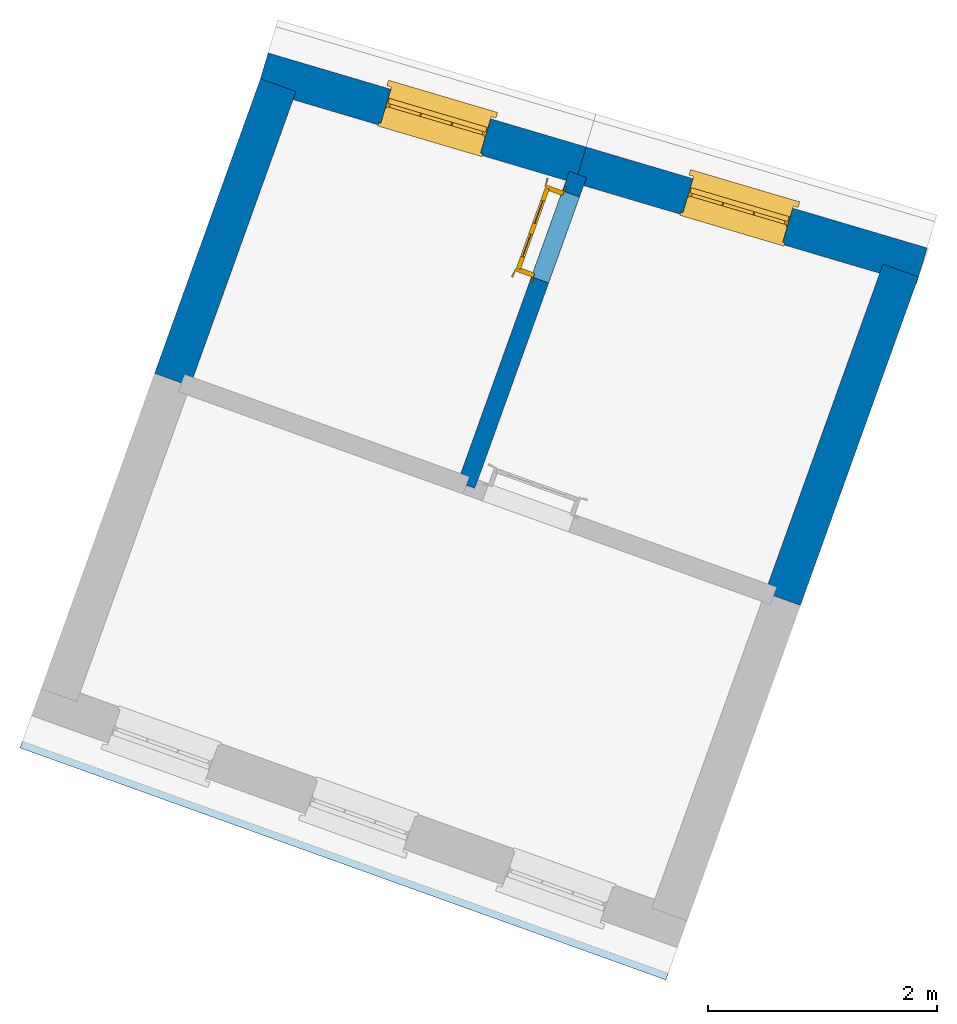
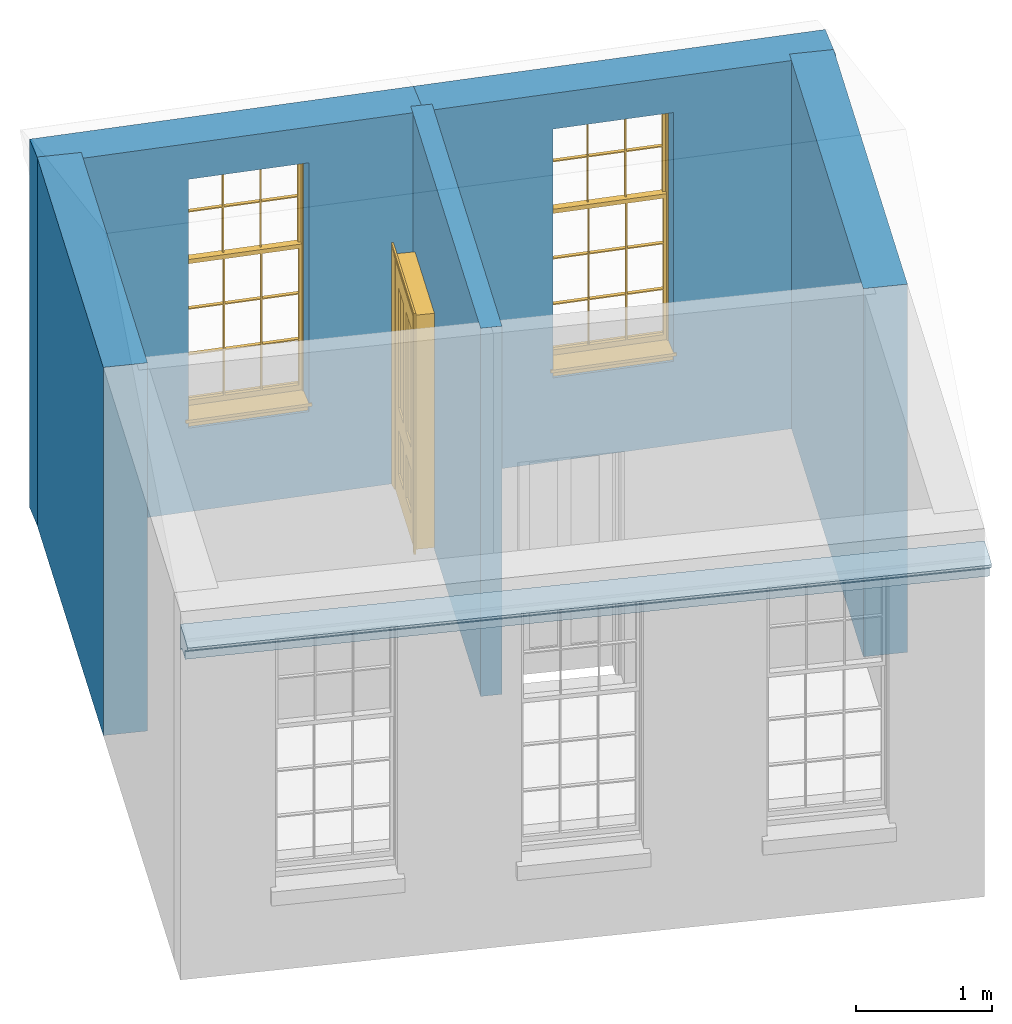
# One storey, part 2 of 3: 5 walls, 2 windows, 1 door, 1 roof, 3 openings.
"""IFC4 building model written with IfcOpenShell, lengths in metres."""

import ifcopenshell
import ifcopenshell.guid

model = None  # the IFC model being written
_history = None  # IfcOwnerHistory: only IFC2X3 demands one
_inside = {}  # id of a spatial element -> (the spatial element, [elements in it])
_under = {}  # id of a project, library or spatial element -> (it, [spatial elements below it])
_declared = {}  # id of a project -> (the project, [libraries it declares])
_typed = {}  # id of a type object -> (the type object, [elements of that type])
_made_of = {}  # id of a material, layer set ... -> (it, [elements and type objects made of it])


def new_model(schema):
    """Start an empty IFC model of exactly this schema.

    Asked for "IFC4X3", IfcOpenShell would pick the latest addendum, in which some entities
    have other attributes; the version numbers below select the first issue.
    IFC2X3 requires an IfcOwnerHistory on every rooted entity: one is made here for all.
    """
    global model, _history
    if schema == "IFC4X3":
        model = ifcopenshell.file(schema_version=(4, 3, 0, 0))
    else:
        model = ifcopenshell.file(schema=schema)
    _inside.clear()
    _under.clear()
    _declared.clear()
    _typed.clear()
    _made_of.clear()
    _history = None
    if model.schema == "IFC2X3":
        org = make("IfcOrganization", Name="unknown")
        user = make(
            "IfcPersonAndOrganization",
            ThePerson=make("IfcPerson", FamilyName="unknown"),
            TheOrganization=org,
        )
        app = make(
            "IfcApplication",
            ApplicationDeveloper=org,
            Version="unknown",
            ApplicationFullName="unknown",
            ApplicationIdentifier="unknown",
        )
        _history = make(
            "IfcOwnerHistory",
            OwningUser=user,
            OwningApplication=app,
            ChangeAction="ADDED",
            CreationDate=0,
        )
    return model


def make(cls, **values):
    """One entity of the class cls with the attributes given. An attribute that is None is left unset."""
    return model.create_entity(
        cls, **{name: value for name, value in values.items() if value is not None}
    )


def rooted(cls, **values):
    """An entity with a GlobalId (a new one), such as an element, a storey or a relation."""
    return make(cls, GlobalId=ifcopenshell.guid.new(), OwnerHistory=_history, **values)


def si_unit(unit_type, name, prefix=None):
    """IfcSIUnit, for example si_unit("LENGTHUNIT", "METRE", prefix="MILLI")."""
    return make("IfcSIUnit", UnitType=unit_type, Prefix=prefix, Name=name)


def assignment(units):
    """IfcUnitAssignment: the units of a project."""
    return None if units is None else make("IfcUnitAssignment", Units=units)


def point(xyz):
    """IfcCartesianPoint."""
    return None if xyz is None else make("IfcCartesianPoint", Coordinates=xyz)


def direction(xyz):
    """IfcDirection."""
    return None if xyz is None else make("IfcDirection", DirectionRatios=xyz)


def frame(location, z_axis=None, x_axis=None):
    """IfcAxis2Placement3D, a coordinate frame: its origin and axes. An axis left out is left unset."""
    return make(
        "IfcAxis2Placement3D",
        Location=point(location),
        Axis=direction(z_axis),
        RefDirection=direction(x_axis),
    )


def origin():
    """The frame at (0, 0, 0) with its axes left unset."""
    return frame((0.0, 0.0, 0.0))


def origin_with_axes():
    """The frame at (0, 0, 0) with the z axis (0, 0, 1) and the x axis (1, 0, 0) written out."""
    return frame((0.0, 0.0, 0.0), z_axis=(0.0, 0.0, 1.0), x_axis=(1.0, 0.0, 0.0))


def place(relative_to, where):
    """IfcLocalPlacement: puts the frame where relative to a parent placement (None: the world)."""
    return make(
        "IfcLocalPlacement", PlacementRelTo=relative_to, RelativePlacement=where
    )


def context(
    kind, dimensions, precision=None, world=None, true_north=None, identifier=None
):
    """IfcGeometricRepresentationContext, for example the 3D "Model" context."""
    return make(
        "IfcGeometricRepresentationContext",
        ContextIdentifier=identifier,
        ContextType=kind,
        CoordinateSpaceDimension=dimensions,
        Precision=precision,
        WorldCoordinateSystem=world,
        TrueNorth=true_north,
    )


def subcontext(parent, identifier, kind, view, scale=None):
    """IfcGeometricRepresentationSubContext, for example "Body" below "Model"."""
    return make(
        "IfcGeometricRepresentationSubContext",
        ContextIdentifier=identifier,
        ContextType=kind,
        ParentContext=parent,
        TargetScale=scale,
        TargetView=view,
    )


def project(units=None, contexts=None):
    """IfcProject with its units and contexts."""
    return rooted(
        "IfcProject",
        Name="project",
        RepresentationContexts=contexts,
        UnitsInContext=assignment(units),
    )


def spatial(cls, under=None, at=None, **own):
    """A site, building, storey or space (cls), placed at a placement, below another one or the project."""
    s = rooted(cls, ObjectPlacement=at, **own)
    if under is not None:
        _under.setdefault(under.id(), (under, []))[1].append(s)
    return s


def polyline(points):
    """IfcPolyline through the points."""
    return make("IfcPolyline", Points=[point(p) for p in points])


def outline(outer, holes=None, kind="AREA"):
    """IfcArbitraryClosedProfileDef: a profile drawn as a closed curve; with holes, ...WithVoids."""
    if holes is None:
        return make("IfcArbitraryClosedProfileDef", ProfileType=kind, OuterCurve=outer)
    return make(
        "IfcArbitraryProfileDefWithVoids",
        ProfileType=kind,
        OuterCurve=outer,
        InnerCurves=holes,
    )


def extrude(swept, where, along, depth):
    """IfcExtrudedAreaSolid: the profile swept, set in the frame where, extruded along a direction by depth."""
    return make(
        "IfcExtrudedAreaSolid",
        SweptArea=swept,
        Position=where,
        ExtrudedDirection=direction(along),
        Depth=depth,
    )


def clip(a, b, op="DIFFERENCE"):
    """IfcBooleanClippingResult: the solid a cut by the half space b."""
    return make(
        "IfcBooleanClippingResult", Operator=op, FirstOperand=a, SecondOperand=b
    )


def halfspace(plane, agree):
    """IfcHalfSpaceSolid: all space on one side of the plane z = 0 of the frame plane."""
    return make(
        "IfcHalfSpaceSolid",
        BaseSurface=make("IfcPlane", Position=plane),
        AgreementFlag=agree,
    )


def faces_of(points, faces, orient=None, outer=None):
    """IfcFace entities. A face is a list of loops; a loop is a list of indices into points, from 0.

    orient and outer hold one flag for each loop. By default every Orientation is true, the
    first loop of a face is its IfcFaceOuterBound and the others are IfcFaceBound.
    """
    made = []
    for i, loops in enumerate(faces):
        bounds = []
        for j, loop in enumerate(loops):
            is_outer = j == 0 if outer is None else outer[i][j]
            bounds.append(
                make(
                    "IfcFaceOuterBound" if is_outer else "IfcFaceBound",
                    Bound=make("IfcPolyLoop", Polygon=[points[k] for k in loop]),
                    Orientation=True if orient is None else orient[i][j],
                )
            )
        made.append(make("IfcFace", Bounds=bounds))
    return made


def faceted_brep(points, faces, orient=None, outer=None, voids=None):
    """IfcFacetedBrep: a solid bounded by flat faces; with voids (closed shells), ...WithVoids."""
    shared = [point(p) for p in points]
    hull = make("IfcClosedShell", CfsFaces=faces_of(shared, faces, orient, outer))
    if voids is None:
        return make("IfcFacetedBrep", Outer=hull)
    return make(
        "IfcFacetedBrepWithVoids",
        Outer=hull,
        Voids=[
            make(cls, CfsFaces=faces_of(shared, fs, o, b)) for cls, fs, o, b in voids
        ],
    )


def shape(context_of_items, identifier, shape_type, items):
    """IfcShapeRepresentation: the items that make up one representation, for example the "Body"."""
    return make(
        "IfcShapeRepresentation",
        ContextOfItems=context_of_items,
        RepresentationIdentifier=identifier,
        RepresentationType=shape_type,
        Items=items,
    )


def source(mapping_origin, context_of_items, identifier, shape_type, items):
    """IfcRepresentationMap: a shape defined once, which mapped items show again and again."""
    return make(
        "IfcRepresentationMap",
        MappingOrigin=mapping_origin,
        MappedRepresentation=shape(context_of_items, identifier, shape_type, items),
    )


def transform(
    local_origin,
    x_axis=None,
    y_axis=None,
    z_axis=None,
    scale=None,
    scale2=None,
    scale3=None,
    uniform=True,
):
    """IfcCartesianTransformationOperator3D, or its non-uniform kind. x_axis, y_axis, z_axis: its Axis1, 2, 3."""
    if uniform:
        return make(
            "IfcCartesianTransformationOperator3D",
            Axis1=direction(x_axis),
            Axis2=direction(y_axis),
            LocalOrigin=point(local_origin),
            Scale=scale,
            Axis3=direction(z_axis),
        )
    return make(
        "IfcCartesianTransformationOperator3DnonUniform",
        Axis1=direction(x_axis),
        Axis2=direction(y_axis),
        LocalOrigin=point(local_origin),
        Scale=scale,
        Axis3=direction(z_axis),
        Scale2=scale2,
        Scale3=scale3,
    )


def mapped(mapping_source, mapping_target):
    """IfcMappedItem: shows the shape of a source again, moved by a transform."""
    return make(
        "IfcMappedItem", MappingSource=mapping_source, MappingTarget=mapping_target
    )


def material(Name=None, Category=None):
    """IfcMaterial."""
    return make("IfcMaterial", Name=Name, Category=Category)


def layer(
    of_material, thickness, ventilated=None, Name=None, Category=None, Priority=None
):
    """IfcMaterialLayer: one layer of a wall or slab, of a material (None: an air gap)."""
    return make(
        "IfcMaterialLayer",
        Material=of_material,
        LayerThickness=thickness,
        IsVentilated=ventilated,
        Name=Name,
        Category=Category,
        Priority=Priority,
    )


def layer_set(layers, Name=None):
    """IfcMaterialLayerSet."""
    return make("IfcMaterialLayerSet", MaterialLayers=layers, LayerSetName=Name)


def layer_usage(for_layer_set, set_direction, sense, offset, extent=None):
    """IfcMaterialLayerSetUsage: how a layer set lies in its element."""
    return make(
        "IfcMaterialLayerSetUsage",
        ForLayerSet=for_layer_set,
        LayerSetDirection=set_direction,
        DirectionSense=sense,
        OffsetFromReferenceLine=offset,
        ReferenceExtent=extent,
    )


def material_profile(
    of_material, cross_section, Name=None, Category=None, Priority=None
):
    """IfcMaterialProfile: a cross section and its material."""
    return make(
        "IfcMaterialProfile",
        Name=Name,
        Material=of_material,
        Profile=cross_section,
        Priority=Priority,
        Category=Category,
    )


def profile_set(profiles, Name=None, composite=None):
    """IfcMaterialProfileSet."""
    return make(
        "IfcMaterialProfileSet",
        Name=Name,
        MaterialProfiles=profiles,
        CompositeProfile=composite,
    )


def profile_usage(for_profile_set, cardinal=None, extent=None):
    """IfcMaterialProfileSetUsage: how a profile set lies along its element."""
    return make(
        "IfcMaterialProfileSetUsage",
        ForProfileSet=for_profile_set,
        CardinalPoint=cardinal,
        ReferenceExtent=extent,
    )


def made_of(thing, what):
    """Note that an element or type object is made of a material, layer set ...; save() writes the relation."""
    if what is not None:
        _made_of.setdefault(what.id(), (what, []))[1].append(thing)
    return thing


def type_object(cls, material=None, **own):
    """A type object (cls), such as IfcWallType, which elements share."""
    return made_of(rooted(cls, **own), material)


def type_shapes(of_type, sources):
    """Give a type object the sources (RepresentationMaps) that its elements show as mapped items."""
    of_type.RepresentationMaps = sources


def element(
    cls,
    number,
    at=None,
    inside=None,
    cuts=None,
    type_object=None,
    material=None,
    context=None,
    identifier="Body",
    shape_type=None,
    held_by="IfcProductDefinitionShape",
    body=None,
    shapes=None,
    **own,
):
    """One element of the class cls, such as IfcWall. Its Tag is "e" and its number.

    at: its placement. inside: the storey or other place that contains it. cuts: it is an
    opening in that element (IfcRelVoidsElement). A single representation is given by context,
    identifier, shape_type and body (its items); several are given by shapes. held_by: the class
    of the entity that holds the representations. save() writes the other relations.
    """
    e = rooted(cls, Tag="e%d" % number, ObjectPlacement=at, **own)
    if body is not None:
        shapes = [shape(context, identifier, shape_type, body)]
    if shapes is not None:
        e.Representation = make(held_by, Representations=shapes)
    if inside is not None:
        _inside.setdefault(inside.id(), (inside, []))[1].append(e)
    if cuts is not None:
        rooted(
            "IfcRelVoidsElement", RelatingBuildingElement=cuts, RelatedOpeningElement=e
        )
    if type_object is not None:
        _typed.setdefault(type_object.id(), (type_object, []))[1].append(e)
    return made_of(e, material)


def fill(opening, filler):
    """IfcRelFillsElement: the door or window that sits in an opening."""
    return rooted(
        "IfcRelFillsElement",
        RelatingOpeningElement=opening,
        RelatedBuildingElement=filler,
    )


def aggregate(whole, parts):
    """IfcRelAggregates: a whole, such as a stair, and the parts it consists of."""
    return rooted("IfcRelAggregates", RelatingObject=whole, RelatedObjects=parts)


def save(model, path):
    """Write the relations noted so far, then the file.

    IfcRelAggregates (storeys below a building ...), IfcRelContainedInSpatialStructure (elements
    in a storey), IfcRelDefinesByType, IfcRelAssociatesMaterial and IfcRelDeclares: one each for
    every whole, place, type object, material and project.
    """
    for whole, parts in _under.values():
        aggregate(whole, parts)
    for where, things in _inside.values():
        rooted(
            "IfcRelContainedInSpatialStructure",
            RelatedElements=things,
            RelatingStructure=where,
        )
    for kind, things in _typed.values():
        rooted("IfcRelDefinesByType", RelatedObjects=things, RelatingType=kind)
    for what, things in _made_of.values():
        rooted("IfcRelAssociatesMaterial", RelatedObjects=things, RelatingMaterial=what)
    for by, libraries in _declared.values():
        rooted("IfcRelDeclares", RelatingContext=by, RelatedDefinitions=libraries)
    model.write(path)


model = new_model("IFC4")

# Units and contexts
model_context = context("Model", 3, world=origin_with_axes())
body_context = subcontext(model_context, "Body", "Model", "MODEL_VIEW")
ifc_project = project(units=[si_unit("PLANEANGLEUNIT", "RADIAN"), si_unit("MASSUNIT", "GRAM", prefix="KILO"), si_unit("FORCEUNIT", "NEWTON", prefix="KILO"), si_unit("LENGTHUNIT", "METRE"), si_unit("AREAUNIT", "SQUARE_METRE"), si_unit("VOLUMEUNIT", "CUBIC_METRE")], contexts=[model_context, model_context])

# Sites, building, storey
site_1_placement = place(None, origin_with_axes())
site_1 = spatial("IfcSite", under=ifc_project, at=site_1_placement, Name="Tamar")
site_2_placement = place(site_1_placement, origin_with_axes())
site_2 = spatial("IfcSite", under=site_1, at=site_2_placement, Name="Site plot-24", CompositionType="ELEMENT")
building_placement = place(None, origin_with_axes())
building = spatial("IfcBuilding", under=site_2, at=building_placement, Name="Building plot-24", CompositionType="ELEMENT")
storey_placement = place(None, frame((0.0, 0.0, 32.0), z_axis=(0.0, 0.0, 1.0), x_axis=(1.0, 0.0, 0.0)))
storey = spatial("IfcBuildingStorey", under=building, at=storey_placement, Name="plot-24 2", CompositionType="ELEMENT", Elevation=32.0)

# Wall, opening, window
ifc_material_1 = material(Name="Masonry")
ifc_layer_1 = layer(ifc_material_1, 0.33, ventilated=False)
ifc_layer_set_1 = layer_set([ifc_layer_1], Name="exterior_0.08_0.25")
ifc_layer_usage_1 = layer_usage(ifc_layer_set_1, "AXIS2", "POSITIVE", -0.25)
wall_type_1 = type_object("IfcWallType", Name="exterior_0.08_0.25", PredefinedType="SOLIDWALL", material=ifc_layer_set_1)
wall_1_placement = place(storey_placement, frame((276.213329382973, 278.988640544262, 0.0), z_axis=(0.0, 0.0, 1.0), x_axis=(-0.958899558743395, 0.283745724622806, 0.0)))
wall_1 = element("IfcWall", 1, at=wall_1_placement, inside=storey, type_object=wall_type_1, material=ifc_layer_usage_1, Name="exterior", context=body_context, shape_type="SweptSolid", body=[
    extrude(outline(polyline([(-0.250000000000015, 0.0800000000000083), (-0.250000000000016, -0.250000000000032), (2.85983964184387, -0.250000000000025), (2.85983964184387, 0.0800000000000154), (-0.250000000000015, 0.0800000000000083)])), origin_with_axes(), (0.0, 0.0, 1.0), 3.3),
])
opening_1_placement = place(wall_1_placement, frame((0.974919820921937, 0.0, 0.75)))
opening_1 = element("IfcOpeningElement", 2, at=opening_1_placement, cuts=wall_1, Name="My Opening", ObjectType="Opening", context=body_context, shape_type="SweptSolid", body=[
    extrude(outline(polyline([(0.0, -0.270000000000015), (0.910000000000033, -0.269999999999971), (0.910000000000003, 1.09999999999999), (-3.03090885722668e-14, 1.09999999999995), (0.0, -0.270000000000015)])), origin_with_axes(), (0.0, 0.0, 1.0), 2.23),
])
window_type = type_object("IfcWindowType", Name="sash_big_taller", PartitioningType="DOUBLE_PANEL_HORIZONTAL", PredefinedType="NOTDEFINED")
shared_shape_1 = source(origin(), body_context, "Body", "Brep", [
    faceted_brep([(0.033125, 0.145, 1.385209), (0.01, 0.145, 1.385209), (0.033125, 0.145, 1.786042), (0.876875, 0.145, 1.385209), (0.876875, 0.145, 1.786042), (0.9, 0.145, 1.385209), (0.876875, 0.145, 1.796042), (0.876875, 0.145, 2.196875), (0.9, 0.145, 2.22), (0.033125, 0.145, 2.196875), (0.033125, 0.145, 1.796042), (0.01, 0.145, 2.22), (0.876875, 0.115, 1.786042), (0.876875, 0.115, 1.385209), (0.9, 0.115, 1.347084), (0.033125, 0.115, 2.196875), (0.01, 0.115, 2.22), (0.033125, 0.115, 1.796042), (0.01, 0.115, 1.347084), (0.033125, 0.115, 1.385209), (0.033125, 0.115, 1.786042), (0.876875, 0.115, 2.196875), (0.876875, 0.115, 1.796042), (0.9, 0.115, 2.22), (0.033125, 0.145, 1.347084), (0.01, 0.145, 1.347084), (0.033125, 0.145, 0.94625), (0.876875, 0.145, 1.347084), (0.876875, 0.145, 0.94625), (0.9, 0.145, 1.347084), (0.876875, 0.145, 0.52625), (0.876875, 0.145, 0.125417), (0.9, 0.145, 0.077167), (0.033125, 0.145, 0.125417), (0.033125, 0.145, 0.52625), (0.01, 0.145, 0.077167), (-0.0425, 0.0, 0.01), (-0.0425, -0.05, 0.001667), (0.0, 0.0, 0.01), (0.9525, 0.0, 0.01), (0.91, 0.0, 0.01), (0.9525, -0.05, 0.001667), (-0.02, 0.33, 0.077167), (0.0, 0.33, 0.077167), (-0.02, 0.36, 0.077167), (0.0, 0.19, 0.077167), (0.01, 0.19, 0.077167), (0.91, 0.19, 0.077167), (0.91, 0.33, 0.077167), (0.9, 0.19, 0.077167), (0.93, 0.33, 0.077167), (0.93, 0.36, 0.077167), (0.01, 0.175, 1.385209), (0.9, 0.175, 1.385209), (0.876875, 0.175, 0.125417), (0.876875, 0.175, 0.52625), (0.9, 0.175, 0.077167), (0.876875, 0.175, 0.94625), (0.876875, 0.175, 1.347084), (0.033125, 0.175, 0.125417), (0.01, 0.175, 0.077167), (0.033125, 0.175, 0.52625), (0.033125, 0.175, 1.347084), (0.033125, 0.175, 0.94625), (-0.02, 0.33, 0.052167), (-0.02, 0.36, 0.052167), (0.93, 0.36, 0.052167), (0.93, 0.33, 0.052167), (0.91, 0.33, 0.052167), (0.0, 0.33, 0.052167), (0.91, 0.1, 0.026667), (0.0, 0.1, 0.026667), (-0.0425, -0.05, -0.123333), (0.9525, -0.05, -0.123333), (-0.0425, 0.0, -0.123333), (0.9525, 0.0, -0.123333), (0.01, 0.19, 2.22), (0.9, 0.19, 2.22), (0.0, 0.19, 2.23), (0.91, 0.19, 2.23), (0.01, 0.1, 0.077167), (0.9, 0.1, 0.077167), (0.592292, 0.145, 0.125417), (0.592292, 0.175, 0.125417), (0.317708, 0.175, 0.125417), (0.317708, 0.145, 0.125417), (0.592292, 0.145, 0.53625), (0.317708, 0.145, 0.53625), (0.317708, 0.145, 0.52625), (0.592292, 0.145, 0.52625), (0.592292, 0.175, 0.53625), (0.317708, 0.175, 0.53625), (0.592292, 0.115, 1.796042), (0.592292, 0.145, 1.796042), (0.317708, 0.145, 1.796042), (0.317708, 0.115, 1.796042), (0.317708, 0.115, 1.786042), (0.592292, 0.115, 1.786042), (0.317708, 0.145, 1.786042), (0.592292, 0.145, 1.786042), (0.602292, 0.115, 1.786042), (0.592292, 0.115, 1.385209), (0.602292, 0.115, 1.385209), (0.602292, 0.145, 1.385209), (0.592292, 0.145, 1.385209), (0.602292, 0.145, 1.786042), (0.876875, 0.145, 0.53625), (0.876875, 0.175, 0.53625), (0.602292, 0.175, 0.53625), (0.602292, 0.145, 0.53625), (0.317708, 0.175, 0.52625), (0.307708, 0.175, 0.125417), (0.307708, 0.175, 0.52625), (0.602292, 0.175, 0.52625), (0.602292, 0.175, 0.125417), (0.592292, 0.175, 0.52625), (0.307708, 0.175, 0.53625), (0.033125, 0.175, 0.53625), (0.317708, 0.175, 1.347084), (0.317708, 0.175, 0.94625), (0.307708, 0.175, 0.94625), (0.307708, 0.175, 1.347084), (0.602292, 0.175, 1.347084), (0.602292, 0.175, 0.94625), (0.592292, 0.175, 0.94625), (0.592292, 0.175, 1.347084), (0.307708, 0.145, 0.52625), (0.307708, 0.145, 0.125417), (0.307708, 0.145, 0.53625), (0.033125, 0.145, 0.53625), (0.307708, 0.145, 1.347084), (0.307708, 0.145, 0.94625), (0.592292, 0.145, 1.347084), (0.592292, 0.145, 0.94625), (0.317708, 0.145, 0.94625), (0.317708, 0.145, 1.347084), (0.602292, 0.145, 0.94625), (0.602292, 0.145, 1.347084), (0.602292, 0.145, 0.52625), (0.602292, 0.145, 0.125417), (0.307708, 0.115, 1.796042), (0.307708, 0.115, 1.786042), (0.307708, 0.115, 1.385209), (0.317708, 0.115, 1.385209), (0.317708, 0.115, 2.196875), (0.307708, 0.115, 2.196875), (0.602292, 0.115, 2.196875), (0.592292, 0.115, 2.196875), (0.602292, 0.115, 1.796042), (0.602292, 0.145, 1.796042), (0.307708, 0.145, 1.796042), (0.307708, 0.145, 2.196875), (0.317708, 0.145, 2.196875), (0.592292, 0.145, 2.196875), (0.602292, 0.145, 2.196875), (0.307708, 0.145, 1.786042), (0.317708, 0.145, 1.385209), (0.307708, 0.145, 1.385209), (0.876875, 0.175, 0.93625), (0.033125, 0.175, 0.93625), (0.033125, 0.145, 0.93625), (0.876875, 0.145, 0.93625), (0.91, 0.1, 2.23), (0.9, 0.1, 2.22), (0.01, 0.1, 2.22), (0.0, 0.1, 2.23), (0.91, 0.0, 0.0), (0.0, 0.0, 0.0), (0.91, 0.33, 0.0), (0.0, 0.33, 0.0), (0.317708, 0.145, 0.93625), (0.592292, 0.145, 0.93625), (0.317708, 0.175, 0.93625), (0.307708, 0.175, 0.93625), (0.602292, 0.175, 0.93625), (0.592292, 0.175, 0.93625), (0.307708, 0.145, 0.93625), (0.602292, 0.145, 0.93625)], [[[0, 1, 2]], [[3, 4, 5]], [[6, 7, 8]], [[9, 10, 11]], [[12, 13, 14]], [[15, 16, 17]], [[18, 19, 20]], [[21, 22, 23]], [[24, 25, 26]], [[27, 28, 29]], [[30, 31, 32]], [[33, 34, 35]], [[14, 27, 29]], [[25, 24, 18]], [[36, 37, 38]], [[39, 40, 41]], [[42, 43, 44]], [[45, 46, 43]], [[47, 48, 49]], [[50, 51, 48]], [[1, 0, 52]], [[5, 53, 3]], [[54, 55, 56]], [[57, 58, 53]], [[59, 60, 61]], [[62, 63, 52]], [[48, 43, 46, 49]], [[51, 44, 43, 48]], [[64, 42, 44, 65]], [[65, 44, 51, 66]], [[66, 51, 50, 67]], [[65, 66, 68, 69]], [[60, 56, 49, 46]], [[70, 71, 38, 40]], [[37, 41, 40, 38]], [[37, 72, 73, 41]], [[74, 75, 73, 72]], [[8, 11, 76, 77]], [[76, 78, 79, 77]], [[32, 35, 80, 81]], [[81, 80, 71, 70]], [[82, 83, 84, 85]], [[86, 87, 88, 89]], [[86, 90, 91, 87]], [[92, 93, 94, 95]], [[92, 95, 96, 97]], [[96, 98, 99, 97]], [[100, 97, 101, 102]], [[103, 104, 99, 105]], [[97, 99, 104, 101]], [[102, 103, 105, 100]], [[106, 107, 108, 109]], [[110, 84, 111, 112]], [[113, 114, 83, 115]], [[116, 112, 61, 117]], [[90, 115, 110, 91]], [[118, 119, 120, 121]], [[122, 123, 124, 125]], [[113, 108, 107, 55]], [[126, 112, 111, 127]], [[34, 61, 112, 126]], [[89, 115, 83, 82]], [[88, 110, 115, 89]], [[85, 84, 110, 88]], [[128, 116, 117, 129]], [[130, 121, 120, 131]], [[132, 125, 124, 133]], [[134, 119, 118, 135]], [[136, 123, 122, 137]], [[138, 113, 55, 30]], [[139, 114, 113, 138]], [[138, 30, 106, 109]], [[88, 126, 127, 85]], [[138, 89, 82, 139]], [[137, 132, 133, 136]], [[128, 129, 34, 126]], [[135, 130, 131, 134]], [[140, 17, 20, 141]], [[96, 141, 142, 143]], [[144, 145, 140, 95]], [[146, 147, 92, 148]], [[100, 12, 22, 148]], [[149, 6, 4, 105]], [[94, 150, 151, 152]], [[149, 93, 153, 154]], [[99, 98, 94, 93]], [[155, 2, 10, 150]], [[156, 157, 155, 98]], [[141, 155, 157, 142]], [[20, 2, 155, 141]], [[143, 156, 98, 96]], [[140, 150, 10, 17]], [[145, 151, 150, 140]], [[147, 153, 93, 92]], [[95, 94, 152, 144]], [[22, 6, 149, 148]], [[148, 149, 154, 146]], [[100, 105, 4, 12]], [[109, 86, 89, 138]], [[108, 113, 115, 90]], [[91, 110, 112, 116]], [[87, 128, 126, 88]], [[97, 100, 148, 92]], [[141, 96, 95, 140]], [[98, 155, 150, 94]], [[105, 99, 93, 149]], [[143, 101, 104, 156]], [[135, 118, 125, 132]], [[144, 152, 153, 147]], [[127, 111, 59, 33]], [[15, 9, 151, 145]], [[146, 154, 7, 21]], [[31, 54, 114, 139]], [[36, 74, 72, 37]], [[39, 41, 73, 75]], [[18, 14, 101, 143]], [[23, 16, 144, 147]], [[83, 56, 60, 84]], [[52, 53, 125, 118]], [[53, 52, 156, 104]], [[11, 8, 153, 152]], [[14, 18, 135, 132]], [[2, 1, 11, 10]], [[8, 5, 4, 6]], [[57, 53, 56, 158]], [[60, 52, 63, 159]], [[26, 25, 35, 160]], [[32, 29, 28, 161]], [[14, 23, 22, 12]], [[18, 20, 17, 16]], [[19, 0, 2, 20]], [[17, 10, 9, 15]], [[12, 4, 3, 13]], [[21, 7, 6, 22]], [[27, 58, 57, 28]], [[30, 55, 54, 31]], [[33, 59, 61, 34]], [[26, 63, 62, 24]], [[5, 8, 77, 53]], [[76, 11, 1, 52]], [[46, 45, 78, 76]], [[49, 77, 79, 47]], [[70, 162, 163, 81]], [[71, 80, 164, 165]], [[19, 142, 157, 0]], [[102, 13, 3, 103]], [[121, 130, 24, 62]], [[29, 32, 81, 14]], [[80, 35, 25, 18]], [[60, 46, 76, 52]], [[77, 49, 56, 53]], [[23, 14, 81, 163]], [[16, 164, 80, 18]], [[35, 85, 127]], [[127, 33, 35]], [[139, 82, 32]], [[32, 31, 139]], [[32, 82, 85, 35]], [[102, 101, 14]], [[14, 13, 102]], [[18, 143, 142]], [[142, 19, 18]], [[146, 21, 23]], [[23, 147, 146]], [[16, 15, 145]], [[145, 144, 16]], [[11, 152, 151]], [[151, 9, 11]], [[154, 153, 8]], [[8, 7, 154]], [[23, 163, 164, 16]], [[162, 165, 164, 163]], [[52, 118, 121]], [[121, 62, 52]], [[125, 53, 122]], [[58, 122, 53]], [[27, 137, 122, 58]], [[56, 83, 114]], [[114, 54, 56]], [[111, 84, 60]], [[60, 59, 111]], [[137, 27, 14]], [[14, 132, 137]], [[130, 135, 18]], [[18, 24, 130]], [[157, 156, 52]], [[52, 0, 157]], [[103, 3, 53]], [[53, 104, 103]], [[79, 78, 165, 162]], [[78, 45, 71, 165]], [[162, 70, 47, 79]], [[166, 75, 74, 167]], [[68, 66, 67]], [[48, 68, 67, 50]], [[69, 64, 65]], [[42, 64, 69, 43]], [[69, 68, 168, 169]], [[70, 68, 48, 47]], [[166, 168, 68, 70]], [[43, 69, 71, 45]], [[69, 169, 167, 71]], [[168, 166, 167, 169]], [[38, 167, 74, 36]], [[71, 167, 38]], [[39, 75, 166, 40]], [[40, 166, 70]], [[133, 134, 170, 171]], [[133, 124, 119, 134]], [[28, 57, 123, 136]], [[172, 91, 116, 173]], [[174, 108, 90, 175]], [[120, 173, 159, 63]], [[124, 175, 172, 119]], [[174, 123, 57, 158]], [[176, 173, 116, 128]], [[160, 159, 173, 176]], [[171, 175, 90, 86]], [[170, 172, 175, 171]], [[87, 91, 172, 170]], [[131, 120, 63, 26]], [[177, 174, 158, 161]], [[109, 108, 174, 177]], [[177, 161, 28, 136]], [[170, 176, 128, 87]], [[177, 171, 86, 109]], [[131, 26, 160, 176]], [[136, 133, 171, 177]], [[123, 174, 175, 124]], [[119, 172, 173, 120]], [[134, 131, 176, 170]], [[129, 117, 159, 160]], [[161, 158, 107, 106]], [[35, 34, 129]], [[35, 129, 160]], [[32, 106, 30]], [[32, 161, 106]], [[56, 55, 107]], [[56, 107, 158]], [[60, 117, 61]], [[60, 159, 117]]]),
])
type_shapes(window_type, [shared_shape_1])
window_1_placement = place(storey_placement, frame((275.355090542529, 279.524172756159, 0.75), z_axis=(0.0, 0.0, 1.0), x_axis=(-0.872598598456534, 0.258208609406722, 0.0)))
window_1 = element("IfcWindow", 3, at=window_1_placement, inside=storey, type_object=window_type, Name="circulation outside window", OverallHeight=2.23, OverallWidth=0.91, context=body_context, shape_type="MappedRepresentation", body=[
    mapped(shared_shape_1, transform((0.0, 0.0, 0.0), scale=1.0)),
])
fill(opening_1, window_1)

wall_2_placement = place(storey_placement, frame((273.471030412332, 279.800107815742, 0.0), z_axis=(0.0, 0.0, 1.0), x_axis=(-0.958899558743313, 0.283745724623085, 0.0)))
wall_2 = element("IfcWall", 4, at=wall_2_placement, inside=storey, type_object=wall_type_1, material=ifc_layer_usage_1, Name="exterior", context=body_context, shape_type="SweptSolid", body=[
    extrude(outline(polyline([(-1.39927933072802e-14, 0.0800000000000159), (8.05064773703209e-14, -0.250000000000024), (2.8991914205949, -0.249999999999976), (2.89919142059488, 0.0800000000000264), (-1.39927933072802e-14, 0.0800000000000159)])), origin_with_axes(), (0.0, 0.0, 1.0), 3.3),
])
opening_2_placement = place(wall_2_placement, frame((0.869595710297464, 0.0, 0.75)))
opening_2 = element("IfcOpeningElement", 5, at=opening_2_placement, cuts=wall_2, Name="My Opening", ObjectType="Opening", context=body_context, shape_type="SweptSolid", body=[
    extrude(outline(polyline([(0.0, -0.269999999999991), (0.909999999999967, -0.270000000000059), (0.90999999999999, 1.09999999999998), (2.25375273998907e-14, 1.10000000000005), (0.0, -0.269999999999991)])), origin_with_axes(), (0.0, 0.0, 1.0), 2.23),
])
window_2_placement = place(storey_placement, frame((272.713786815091, 280.30575476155, 0.75), z_axis=(0.0, 0.0, 1.0), x_axis=(-0.872598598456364, 0.258208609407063, 0.0)))
window_2 = element("IfcWindow", 6, at=window_2_placement, inside=storey, type_object=window_type, Name="toilet outside window", OverallHeight=2.23, OverallWidth=0.91, context=body_context, shape_type="MappedRepresentation", body=[
    mapped(shared_shape_1, transform((0.0, 0.0, 0.0), scale=1.0)),
])
fill(opening_2, window_2)

# Walls
ifc_material_2 = material(Name="Masonry")
ifc_layer_2 = layer(ifc_material_2, 0.33, ventilated=False)
ifc_layer_set_2 = layer_set([ifc_layer_2], Name="party_0.08_0.25")
ifc_layer_usage_2 = layer_usage(ifc_layer_set_2, "AXIS2", "POSITIVE", -0.25)
wall_type_2 = type_object("IfcWallType", Name="party_0.08_0.25", PredefinedType="SOLIDWALL", material=ifc_layer_set_2)
wall_3_placement = place(storey_placement, frame((270.930721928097, 280.551804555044, 0.0), z_axis=(0.0, 0.0, 1.0), x_axis=(-0.33816408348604, -0.94108716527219, 0.0)))
element("IfcWall", 7, at=wall_3_placement, inside=storey, type_object=wall_type_2, material=ifc_layer_usage_2, Name="party", context=body_context, shape_type="SweptSolid", body=[
    extrude(outline(polyline([(4.81699484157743e-15, 0.0799999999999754), (2.24418131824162e-14, -0.249999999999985), (2.73707989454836, -0.249999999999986), (2.73707989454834, 0.0799999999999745), (4.81699484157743e-15, 0.0799999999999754)])), origin_with_axes(), (0.0, 0.0, 1.0), 3.3),
])
wall_4_placement = place(storey_placement, frame((275.181119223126, 276.116071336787, 0.0), z_axis=(0.0, 0.0, 1.0), x_axis=(0.338164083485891, 0.941087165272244, 0.0)))
element("IfcWall", 8, at=wall_4_placement, inside=storey, type_object=wall_type_2, material=ifc_layer_usage_2, Name="party", context=body_context, shape_type="SweptSolid", body=[
    extrude(outline(polyline([(1.74309591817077e-14, 0.0799999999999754), (-1.70266153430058e-14, -0.249999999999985), (3.05239441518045, -0.249999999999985), (3.05239441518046, 0.0800000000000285), (1.74309591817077e-14, 0.0799999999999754)])), origin_with_axes(), (0.0, 0.0, 1.0), 3.3),
])

# Wall, opening, door
ifc_material_3 = material(Name="Masonry")
ifc_layer_3 = layer(ifc_material_3, 0.16, ventilated=False)
ifc_layer_set_3 = layer_set([ifc_layer_3], Name="interior_0.08_0.08")
ifc_layer_usage_3 = layer_usage(ifc_layer_set_3, "AXIS2", "POSITIVE", -0.08)
wall_type_3 = type_object("IfcWallType", Name="interior_0.08_0.08", PredefinedType="SOLIDWALL", material=ifc_layer_set_3)
wall_5_placement = place(storey_placement, frame((272.494172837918, 277.081581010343, 0.0), z_axis=(0.0, 0.0, 1.0), x_axis=(0.338164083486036, 0.941087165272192, 0.0)))
wall_5 = element("IfcWall", 9, at=wall_5_placement, inside=storey, type_object=wall_type_3, material=ifc_layer_usage_3, Name="interior", context=body_context, shape_type="SweptSolid", body=[
    extrude(outline(polyline([(5.10304271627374e-15, 0.0799999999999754), (-5.09324554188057e-15, -0.0799999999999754), (2.88870883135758, -0.0799999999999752), (2.88870883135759, 0.0799999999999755), (5.10304271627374e-15, 0.0799999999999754)])), origin_with_axes(), (0.0, 0.0, 1.0), 3.3),
])
opening_3_placement = place(wall_5_placement, frame((1.90870883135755, 0.0, 0.0200000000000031)))
opening_3 = element("IfcOpeningElement", 10, at=opening_3_placement, cuts=wall_5, Name="My Opening", ObjectType="Opening", context=body_context, shape_type="SweptSolid", body=[
    extrude(outline(polyline([(0.0, -0.100000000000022), (0.800000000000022, -0.0999999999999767), (0.80000000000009, 1.10000000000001), (6.81676937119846e-14, 1.09999999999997), (0.0, -0.100000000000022)])), origin_with_axes(), (0.0, 0.0, 1.0), 2.1),
])
door_type = type_object("IfcDoorType", Name="door_inside", OperationType="SINGLE_SWING_LEFT", PredefinedType="NOTDEFINED")
shared_shape_2 = source(origin(), body_context, "Body", "Brep", [
    faceted_brep([(0.773, 0.33, 1.895), (0.66, 0.33, 1.895), (0.66, 0.33, 2.073), (0.773, 0.33, 2.073), (0.773, 0.33, 0.82), (0.66, 0.33, 0.82), (0.45, 0.33, 1.895), (0.45, 0.33, 2.073), (0.773, 0.33, 0.62), (0.66, 0.33, 0.62), (0.66, 0.315, 0.82), (0.66, 0.315, 1.895), (0.45, 0.315, 1.895), (0.35, 0.33, 1.895), (0.35, 0.33, 2.073), (0.773, 0.33, 0.225), (0.66, 0.33, 0.225), (0.45, 0.33, 0.62), (0.45, 0.33, 0.82), (0.45, 0.315, 0.82), (0.35, 0.33, 0.82), (0.14, 0.33, 2.073), (0.14, 0.33, 1.895), (0.773, 0.33, 0.0), (0.66, 0.33, 0.0), (0.66, 0.315, 0.225), (0.66, 0.315, 0.62), (0.45, 0.315, 0.62), (0.35, 0.33, 0.62), (0.35, 0.315, 0.82), (0.35, 0.315, 1.895), (0.14, 0.315, 1.895), (0.027, 0.33, 2.073), (0.027, 0.33, 1.895), (0.773, 0.292, 0.0), (0.66, 0.292, 0.0), (0.45, 0.33, 0.0), (0.45, 0.33, 0.225), (0.45, 0.315, 0.225), (0.35, 0.33, 0.225), (0.14, 0.33, 0.82), (0.14, 0.33, 0.62), (0.14, 0.315, 0.82), (0.027, 0.33, 0.82), (0.773, 0.292, 0.225), (0.66, 0.292, 0.225), (0.45, 0.292, 0.0), (0.35, 0.33, 0.0), (0.35, 0.315, 0.225), (0.35, 0.315, 0.62), (0.14, 0.315, 0.62), (0.027, 0.33, 0.62), (0.773, 0.292, 0.62), (0.66, 0.292, 0.62), (0.45, 0.292, 0.225), (0.35, 0.292, 0.0), (0.14, 0.33, 0.225), (0.14, 0.33, 0.0), (0.14, 0.315, 0.225), (0.027, 0.33, 0.225), (0.773, 0.292, 0.82), (0.66, 0.292, 0.82), (0.66, 0.307, 0.62), (0.66, 0.307, 0.225), (0.45, 0.307, 0.225), (0.35, 0.292, 0.225), (0.14, 0.292, 0.0), (0.027, 0.33, 0.0), (0.773, 0.292, 1.895), (0.66, 0.292, 1.895), (0.45, 0.292, 0.62), (0.45, 0.292, 0.82), (0.45, 0.307, 0.62), (0.35, 0.292, 0.62), (0.14, 0.292, 0.225), (0.027, 0.292, 0.0), (0.773, 0.292, 2.073), (0.66, 0.292, 2.073), (0.66, 0.307, 1.895), (0.66, 0.307, 0.82), (0.45, 0.307, 0.82), (0.35, 0.292, 0.82), (0.35, 0.307, 0.62), (0.35, 0.307, 0.225), (0.14, 0.307, 0.225), (0.027, 0.292, 0.225), (0.45, 0.292, 1.895), (0.45, 0.292, 2.073), (0.45, 0.307, 1.895), (0.35, 0.292, 1.895), (0.14, 0.292, 0.82), (0.14, 0.292, 0.62), (0.14, 0.307, 0.62), (0.027, 0.292, 0.62), (0.35, 0.292, 2.073), (0.35, 0.307, 1.895), (0.35, 0.307, 0.82), (0.14, 0.307, 0.82), (0.027, 0.292, 0.82), (0.14, 0.292, 2.073), (0.14, 0.292, 1.895), (0.14, 0.307, 1.895), (0.027, 0.292, 1.895), (0.027, 0.292, 2.073), (0.02, 0.335, 0.0), (0.005, 0.34, 0.0), (0.005, 0.34, 2.095), (0.02, 0.335, 2.08), (0.02, 0.33, 0.0), (0.0, 0.335, 0.0), (0.0, 0.335, 2.1), (0.795, 0.34, 2.095), (0.78, 0.335, 2.08), (0.02, 0.33, 2.08), (0.0, 0.33, 0.0), (-0.032, 0.345, 0.0), (-0.032, 0.345, 2.132), (0.8, 0.335, 2.1), (0.795, 0.34, 0.0), (0.78, 0.335, 0.0), (0.78, 0.33, 2.08), (0.04, 0.29, 0.0), (0.025, 0.29, 0.0), (0.025, 0.29, 2.075), (0.04, 0.29, 2.06), (-0.04, 0.34, 0.0), (-0.04, 0.34, 2.14), (0.832, 0.345, 2.132), (0.8, 0.335, 0.0), (0.78, 0.33, 0.0), (0.8, 0.33, 0.0), (0.86, 0.33, 0.0), (0.86, 0.33, 2.16), (0.8, 0.33, 2.1), (-0.06, 0.33, 2.16), (0.0, 0.33, 2.1), (-0.06, 0.33, 0.0), (-0.04, 0.345, 0.0), (-0.04, 0.345, 2.14), (0.84, 0.34, 2.14), (0.832, 0.345, 0.0), (0.84, 0.34, 0.0), (0.86, 0.345, 0.0), (0.86, 0.345, 2.16), (-0.06, 0.345, 2.16), (-0.06, 0.345, 0.0), (0.84, 0.345, 0.0), (0.84, 0.345, 2.14), (-0.025, 0.155, 0.0), (-0.025, 0.16, 0.0), (-0.025, 0.16, 2.125), (-0.025, 0.155, 2.125), (-0.017, 0.155, 0.0), (-0.017, 0.155, 2.117), (0.825, 0.16, 2.125), (0.825, 0.155, 2.125), (0.825, 0.155, 0.0), (0.845, 0.155, 0.0), (-0.045, 0.155, 2.145), (-0.045, 0.155, 0.0), (0.845, 0.155, 2.145), (0.015, 0.165, 0.0), (0.015, 0.165, 2.085), (0.817, 0.155, 2.117), (0.825, 0.16, 0.0), (0.845, 0.17, 0.0), (0.845, 0.17, 2.145), (-0.045, 0.17, 2.145), (-0.045, 0.17, 0.0), (0.02, 0.16, 0.0), (0.02, 0.16, 2.08), (0.785, 0.165, 2.085), (0.817, 0.155, 0.0), (0.8, 0.17, 0.0), (0.8, 0.17, 2.1), (0.0, 0.17, 2.1), (0.0, 0.17, 0.0), (0.035, 0.165, 0.0), (0.035, 0.165, 2.065), (0.78, 0.16, 2.08), (0.785, 0.165, 0.0), (0.775, 0.29, 2.075), (0.76, 0.29, 2.06), (0.035, 0.17, 2.065), (0.035, 0.17, 0.0), (0.765, 0.165, 2.065), (0.78, 0.16, 0.0), (0.765, 0.17, 0.0), (0.765, 0.17, 2.065), (0.765, 0.165, 0.0), (0.04, 0.17, 2.06), (0.04, 0.17, 0.0), (0.76, 0.17, 2.06), (0.76, 0.17, 0.0), (0.76, 0.29, 0.0), (0.775, 0.29, 0.0), (0.025, 0.33, 0.0), (0.025, 0.33, 2.075), (0.775, 0.33, 0.0), (0.775, 0.33, 2.075)], [[[0, 1, 2, 3]], [[1, 0, 4, 5]], [[1, 6, 7, 2]], [[8, 9, 5, 4]], [[1, 5, 10, 11]], [[6, 1, 11, 12]], [[6, 13, 14, 7]], [[15, 16, 9, 8]], [[9, 17, 18, 5]], [[5, 18, 19, 10]], [[10, 19, 12, 11]], [[18, 6, 12, 19]], [[18, 20, 13, 6]], [[21, 14, 13, 22]], [[23, 24, 16, 15]], [[9, 16, 25, 26]], [[17, 9, 26, 27]], [[17, 28, 20, 18]], [[13, 20, 29, 30]], [[22, 13, 30, 31]], [[32, 21, 22, 33]], [[34, 35, 24, 23]], [[24, 36, 37, 16]], [[16, 37, 38, 25]], [[25, 38, 27, 26]], [[37, 17, 27, 38]], [[37, 39, 28, 17]], [[40, 20, 28, 41]], [[20, 40, 42, 29]], [[31, 30, 29, 42]], [[40, 22, 31, 42]], [[33, 22, 40, 43]], [[35, 34, 44, 45]], [[35, 46, 36, 24]], [[36, 47, 39, 37]], [[28, 39, 48, 49]], [[41, 28, 49, 50]], [[43, 40, 41, 51]], [[45, 44, 52, 53]], [[46, 35, 45, 54]], [[46, 55, 47, 36]], [[56, 39, 47, 57]], [[39, 56, 58, 48]], [[50, 49, 48, 58]], [[56, 41, 50, 58]], [[51, 41, 56, 59]], [[53, 52, 60, 61]], [[45, 53, 62, 63]], [[54, 45, 63, 64]], [[55, 46, 54, 65]], [[55, 66, 57, 47]], [[59, 56, 57, 67]], [[61, 60, 68, 69]], [[70, 53, 61, 71]], [[53, 70, 72, 62]], [[72, 64, 63, 62]], [[70, 54, 64, 72]], [[65, 54, 70, 73]], [[65, 74, 66, 55]], [[67, 57, 66, 75]], [[69, 68, 76, 77]], [[61, 69, 78, 79]], [[71, 61, 79, 80]], [[73, 70, 71, 81]], [[65, 73, 82, 83]], [[74, 65, 83, 84]], [[74, 85, 75, 66]], [[86, 69, 77, 87]], [[69, 86, 88, 78]], [[88, 80, 79, 78]], [[86, 71, 80, 88]], [[81, 71, 86, 89]], [[73, 81, 90, 91]], [[73, 91, 92, 82]], [[83, 82, 92, 84]], [[91, 74, 84, 92]], [[91, 93, 85, 74]], [[89, 86, 87, 94]], [[81, 89, 95, 96]], [[90, 81, 96, 97]], [[90, 98, 93, 91]], [[94, 99, 100, 89]], [[89, 100, 101, 95]], [[101, 97, 96, 95]], [[100, 90, 97, 101]], [[100, 102, 98, 90]], [[99, 103, 102, 100]], [[32, 103, 99, 21]], [[102, 103, 32, 33]], [[98, 102, 33, 43]], [[21, 99, 94, 14]], [[94, 87, 7, 14]], [[7, 87, 77, 2]], [[76, 3, 2, 77]], [[43, 51, 93, 98]], [[51, 59, 85, 93]], [[67, 75, 85, 59]], [[34, 23, 15, 44]], [[44, 15, 8, 52]], [[52, 8, 4, 60]], [[0, 68, 60, 4]], [[0, 3, 76, 68]], [[104, 105, 106, 107]], [[104, 108, 109, 105]], [[105, 109, 110, 106]], [[107, 106, 111, 112]], [[107, 113, 108, 104]], [[114, 109, 108]], [[109, 115, 116, 110]], [[106, 110, 117, 111]], [[112, 111, 118, 119]], [[113, 107, 112, 120]], [[121, 122, 123, 124]], [[115, 109, 114, 125]], [[115, 125, 126, 116]], [[110, 116, 127, 117]], [[111, 117, 128, 118]], [[118, 128, 129, 119]], [[120, 112, 119, 129]], [[130, 129, 128]], [[130, 131, 132, 133]], [[133, 132, 134, 135]], [[135, 134, 136, 114]], [[136, 125, 114]], [[125, 137, 138, 126]], [[116, 126, 139, 127]], [[117, 127, 140, 128]], [[141, 130, 128, 140]], [[131, 130, 141]], [[131, 142, 143, 132]], [[132, 143, 144, 134]], [[134, 144, 145, 136]], [[137, 125, 136, 145]], [[143, 142, 146]], [[143, 146, 147]], [[137, 145, 144]], [[143, 147, 138]], [[138, 137, 144]], [[143, 138, 144]], [[126, 138, 147, 139]], [[127, 139, 141, 140]], [[142, 131, 141, 146]], [[139, 147, 146, 141]], [[148, 149, 150, 151]], [[149, 152, 153, 150]], [[151, 150, 154, 155]], [[155, 156, 157]], [[158, 159, 148]], [[158, 148, 151]], [[155, 157, 160]], [[158, 151, 155]], [[155, 160, 158]], [[152, 161, 162, 153]], [[150, 153, 163, 154]], [[155, 154, 164, 156]], [[156, 164, 165, 157]], [[157, 165, 166, 160]], [[160, 166, 167, 158]], [[158, 167, 168, 159]], [[161, 169, 170, 162]], [[153, 162, 171, 163]], [[154, 163, 172, 164]], [[165, 164, 173]], [[165, 173, 174, 166]], [[166, 174, 175, 167]], [[167, 175, 176, 168]], [[169, 177, 178, 170]], [[162, 170, 179, 171]], [[163, 171, 180, 172]], [[172, 180, 173, 164]], [[124, 123, 181, 182]], [[183, 178, 177, 184]], [[170, 178, 185, 179]], [[171, 179, 186, 180]], [[187, 173, 180]], [[185, 188, 187, 189]], [[188, 185, 178, 183]], [[179, 185, 189, 186]], [[189, 187, 180, 186]], [[190, 183, 184, 191]], [[192, 188, 183, 190]], [[191, 184, 122, 121]], [[124, 190, 191, 121]], [[193, 187, 188, 192]], [[182, 192, 190, 124]], [[184, 176, 122]], [[194, 195, 187, 193]], [[192, 182, 194, 193]], [[161, 176, 184]], [[114, 108, 122, 176]], [[173, 187, 195]], [[152, 149, 176, 161]], [[169, 161, 184, 177]], [[196, 122, 108]], [[176, 175, 135, 114]], [[173, 195, 129, 130]], [[176, 149, 168]], [[123, 122, 196, 197]], [[196, 108, 113, 197]], [[175, 174, 133, 135]], [[198, 129, 195]], [[133, 174, 173, 130]], [[159, 168, 149, 148]], [[181, 123, 197, 199]], [[197, 113, 120, 199]], [[199, 120, 129, 198]], [[195, 181, 199, 198]], [[195, 194, 182, 181]]]),
])
type_shapes(door_type, [shared_shape_2])
door_placement = place(storey_placement, frame((273.233738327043, 278.844025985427, 0.0200000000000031), z_axis=(0.0, 0.0, 1.0), x_axis=(0.270531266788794, 0.752869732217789, 0.0)))
door = element("IfcDoor", 11, at=door_placement, inside=storey, type_object=door_type, Name="toilet inside door", OverallHeight=2.1, OverallWidth=0.8, context=body_context, shape_type="MappedRepresentation", body=[
    mapped(shared_shape_2, transform((0.0, 0.0, 0.0), scale=1.0)),
])
fill(opening_3, door)

# Roof
ifc_material_profile = material_profile(None, outline(polyline([(0.25, -0.11), (0.25, -0.33), (0.265, -0.33), (0.268, -0.318), (0.274, -0.309), (0.283, -0.303), (0.295, -0.3), (0.295, -0.285), (0.455, -0.285), (0.455, -0.205), (0.47, -0.205), (0.47, -0.19), (0.483, -0.189), (0.494, -0.186), (0.506, -0.179), (0.514, -0.17), (0.52, -0.16), (0.529, -0.149), (0.539, -0.143), (0.55, -0.14), (0.55, -0.12), (0.48, -0.11), (0.25, -0.11)])))
ifc_profile_set = profile_set([ifc_material_profile])
ifc_profile_usage = profile_usage(ifc_profile_set)
roof_type = type_object("IfcRoofType", Name="eaves_0", PredefinedType="FREEFORM", material=ifc_profile_set)
roof_placement = place(storey_placement, frame((275.366971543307, 272.936855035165, 3.3), z_axis=(-0.941087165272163, 0.338164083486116, 0.0), x_axis=(-0.338164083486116, -0.941087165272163, 0.0)))
element("IfcRoof", 12, at=roof_placement, inside=storey, type_object=roof_type, material=ifc_profile_usage, Name="eaves_0", context=body_context, shape_type="Clipping", body=[
    clip(clip(extrude(outline(polyline([(0.25, -0.11), (0.25, -0.33), (0.265, -0.33), (0.268, -0.318), (0.274, -0.309), (0.283, -0.303), (0.295, -0.3), (0.295, -0.285), (0.455, -0.285), (0.455, -0.205), (0.47, -0.205), (0.47, -0.19), (0.483, -0.189), (0.494, -0.186), (0.506, -0.179), (0.514, -0.17), (0.52, -0.16), (0.529, -0.149), (0.539, -0.143), (0.55, -0.14), (0.55, -0.12), (0.48, -0.11), (0.25, -0.11)])), origin_with_axes(), (0.0, 0.0, 1.0), 8.00000000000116), halfspace(frame((0.0, 0.0, 7.00000000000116), z_axis=(-1.00532395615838e-14, 0.0, -1.0), x_axis=(0.0, 1.0, 0.0)), True)), halfspace(frame((0.0, 0.0, 1.0), z_axis=(-1.00532395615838e-14, 0.0, -1.0), x_axis=(0.0, 1.0, 0.0)), False)),
])

save(model, "model.ifc")
